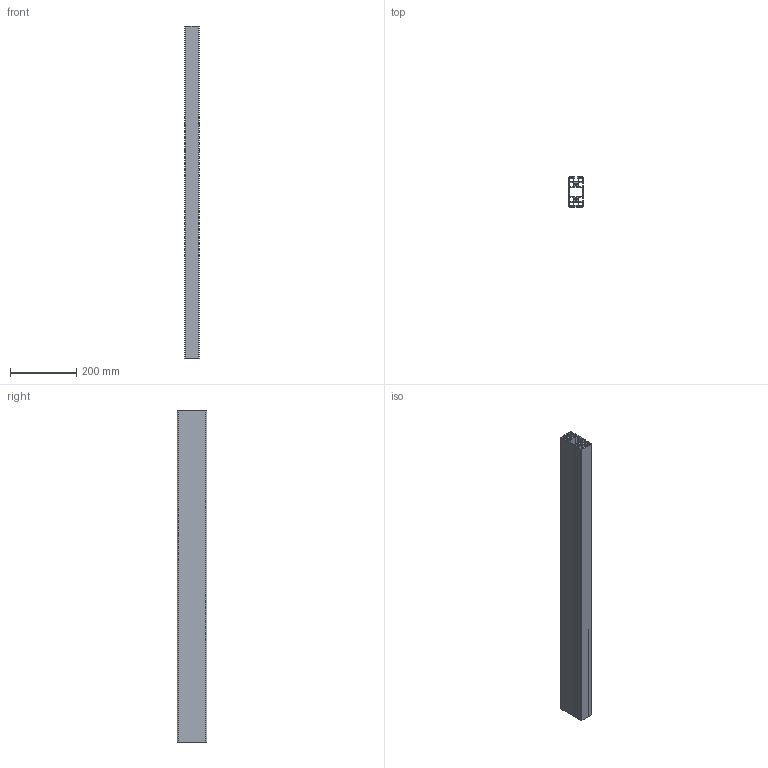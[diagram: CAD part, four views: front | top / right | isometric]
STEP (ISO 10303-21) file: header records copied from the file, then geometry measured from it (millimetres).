
FILE_DESCRIPTION (( 'STEP AP214' ), '1' );
FILE_NAME ('SA02006.step', '2024-12-03T16:28:47', ( '' ), ( '' ), 'SwSTEP 2.0', 'SolidWorks 2023', '' );
FILE_SCHEMA (( 'AUTOMOTIVE_DESIGN' ));
Length unit declared in the file: millimetre
Products named in the file (1): SA02006
Bounding box: 45 x 90 x 1000 mm (x, y, z)
Volume: 1272776.7 mm3; surface area: 885497.5 mm2
Topology: 1 solids, 1 shells, 108 faces, 318 edges, 212 vertices
Faces by surface type: plane 56, cylinder 52
Full cylindrical faces by diameter (mm): 7.45 x2
Entity records: 3679 total; most frequent: DIRECTION 638, CARTESIAN_POINT 637, ORIENTED_EDGE 632, EDGE_CURVE 316, AXIS2_PLACEMENT_3D 213, VERTEX_POINT 212, LINE 212, VECTOR 212
